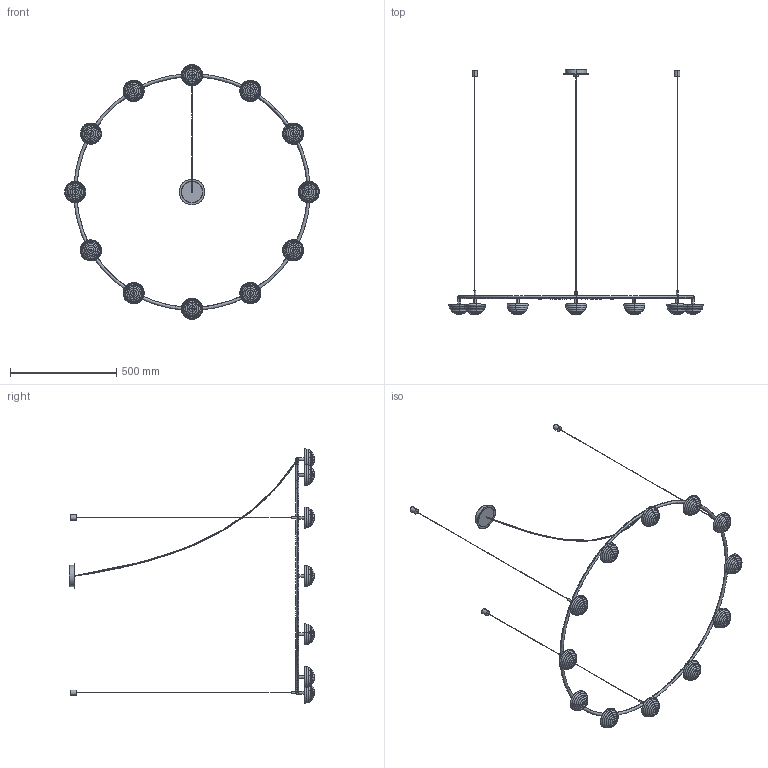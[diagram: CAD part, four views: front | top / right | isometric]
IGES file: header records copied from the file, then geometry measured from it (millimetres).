
Start section: SolidWorks IGES file using analytic representation for surfaces
Global section: file name: C:\Users\Agustin\Desktop\ARNOLD\2024 SEPTIEMBRE\2D\HADO\2D-3D C1331_12\HADO_C1331_12.IGS; native system: SolidWorks 2018; preprocessor: SolidWorks 2018; author: Agustin; date: 240918.101656; units: millimetre
Bounding box: 1199.39 x 1157 x 1199.45 mm (x, y, z)
Surface area: 588707.4 mm2 (no closed solid volume)
Topology: 0 solids, 0 shells, 409 faces, 6590 edges, 6567 vertices
Faces by surface type: bspline 267, revolution 142
